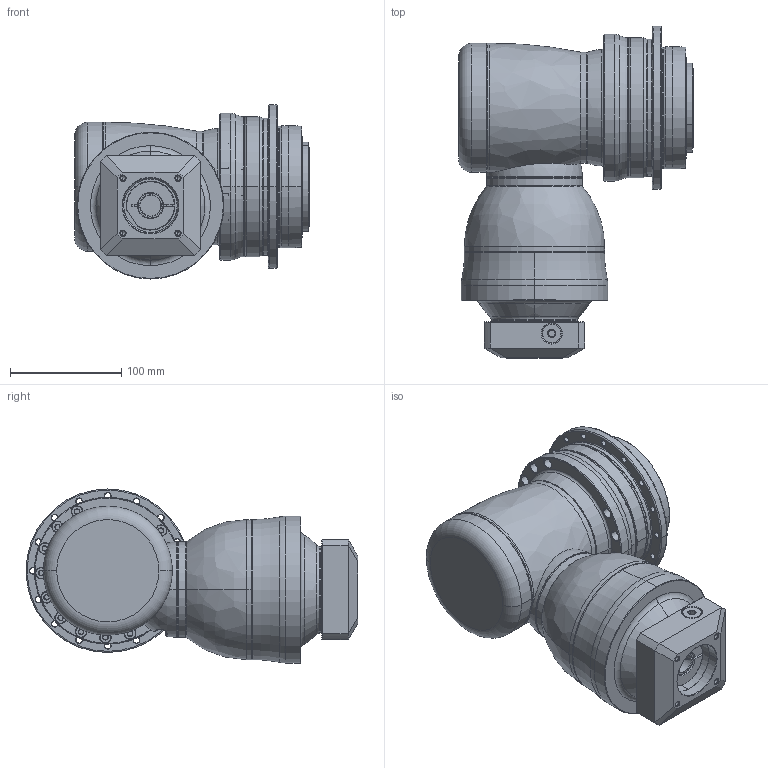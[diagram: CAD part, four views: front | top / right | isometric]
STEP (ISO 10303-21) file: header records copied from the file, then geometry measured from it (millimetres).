
FILE_DESCRIPTION((''),'2;1');
FILE_NAME('AHKB110_3ST_19-P0409400101_ASM','2016-12-13T',('d01943'),(''),'PRO/ENGINEER BY PARAMETRIC TECHNOLOGY CORPORATION, 2008410','PRO/ENGINEER BY PARAMETRIC TECHNOLOGY CORPORATION, 2008410','');
FILE_SCHEMA(('CONFIG_CONTROL_DESIGN'));
Length unit declared in the file: millimetre
Products named in the file (12): P1008400002; P1802400011; P0278400003; P0359400002; P1315400001; P1007400001; P1317400101; P0409400101; P0503400006; P0912302001; 21711412017; AHKB110_3ST_19-P0409400101_ASM
Assembly tree (11 placements, depth 2):
  AHKB110_3ST_19-P0409400101_ASM
    P1008400002
    P1802400011
    P0278400003
    P0359400002
    P1315400001
    P1007400001
    P1317400101
    P0409400101
    P0503400006
    P0912302001
    21711412017
Bounding box: 211.3 x 298.5 x 156.5 mm (x, y, z)
Volume: 2657270.5 mm3; surface area: 418195.2 mm2
Topology: 12 solids, 12 shells, 1101 faces, 2454 edges, 1410 vertices
Faces by surface type: cylinder 402, cone 380, plane 149, torus 126, bspline 42, sphere 2
Entity records: 35811 total; most frequent: CARTESIAN_POINT 10952, DIRECTION 5714, ORIENTED_EDGE 4712, AXIS2_PLACEMENT_3D 2431, EDGE_CURVE 2356, VERTEX_POINT 1410, CIRCLE 1349, EDGE_LOOP 1312
